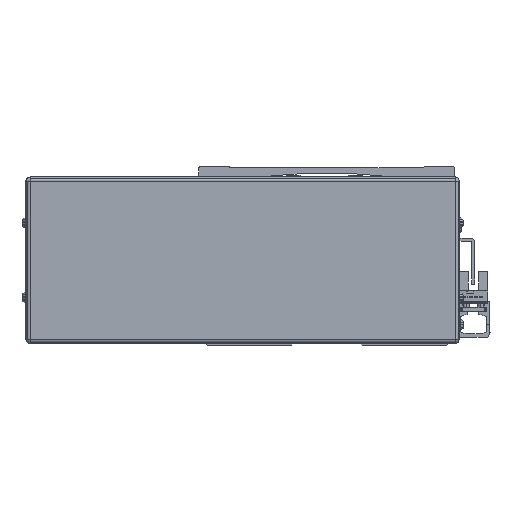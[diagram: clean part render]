
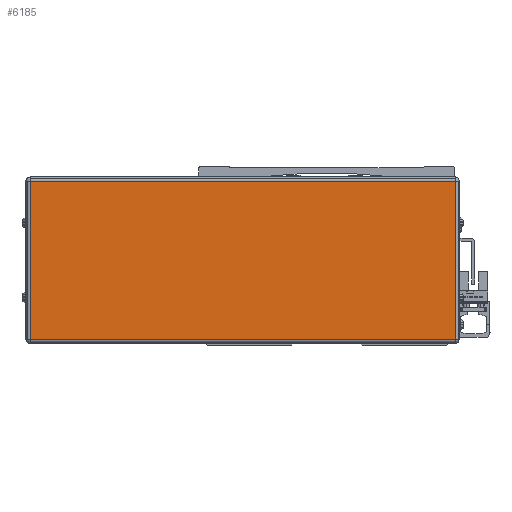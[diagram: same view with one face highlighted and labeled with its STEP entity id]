
A CAD part, front view. The second image highlights one B-rep face of the part: STEP entity #6185.
In plain terms, the highlighted planar face has unit normal (0, -1, 0).
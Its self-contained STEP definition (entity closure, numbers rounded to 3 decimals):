
#6185=ADVANCED_FACE('',(#13279),#13280,.F.);
#13279=FACE_OUTER_BOUND('',#22407,.T.);
#13280=PLANE('',#22408);
#22407=EDGE_LOOP('',(#41009,#41010,#41011,#41012));
#22408=AXIS2_PLACEMENT_3D('',#41013,#41014,#41015);
#41009=ORIENTED_EDGE('',*,*,#56686,.T.);
#41010=ORIENTED_EDGE('',*,*,#56687,.T.);
#41011=ORIENTED_EDGE('',*,*,#55788,.T.);
#41012=ORIENTED_EDGE('',*,*,#50742,.T.);
#41013=CARTESIAN_POINT('',(-340.5,-513.778,-8.));
#41014=DIRECTION('',(0.,1.0,0.));
#41015=DIRECTION('',(-1.0,0.,0.));
#50742=EDGE_CURVE('',#61142,#61140,#61143,.T.);
#55788=EDGE_CURVE('',#66904,#61142,#68904,.T.);
#56686=EDGE_CURVE('',#61140,#70060,#70061,.T.);
#56687=EDGE_CURVE('',#70060,#66904,#70062,.T.);
#61140=VERTEX_POINT('',#75826);
#61142=VERTEX_POINT('',#75828);
#61143=LINE('',#75829,#75830);
#66904=VERTEX_POINT('',#84074);
#68904=LINE('',#87031,#87032);
#70060=VERTEX_POINT('',#88852);
#70061=LINE('',#88853,#88854);
#70062=LINE('',#88855,#88856);
#75826=CARTESIAN_POINT('',(-442.7,-513.778,30.));
#75828=CARTESIAN_POINT('',(-238.3,-513.778,30.));
#75829=CARTESIAN_POINT('',(-340.5,-513.778,30.));
#75830=VECTOR('',#93403,10.0);
#84074=CARTESIAN_POINT('',(-238.3,-513.778,-46.));
#87031=CARTESIAN_POINT('',(-238.3,-513.778,-8.));
#87032=VECTOR('',#99689,10.0);
#88852=CARTESIAN_POINT('',(-442.7,-513.778,-46.));
#88853=CARTESIAN_POINT('',(-442.7,-513.778,-8.));
#88854=VECTOR('',#100685,10.0);
#88855=CARTESIAN_POINT('',(-340.5,-513.778,-46.));
#88856=VECTOR('',#100686,10.0);
#93403=DIRECTION('',(-1.0,0.,0.));
#99689=DIRECTION('',(0.0,0.,1.0));
#100685=DIRECTION('',(0.0,0.,-1.0));
#100686=DIRECTION('',(1.0,0.,0.));
